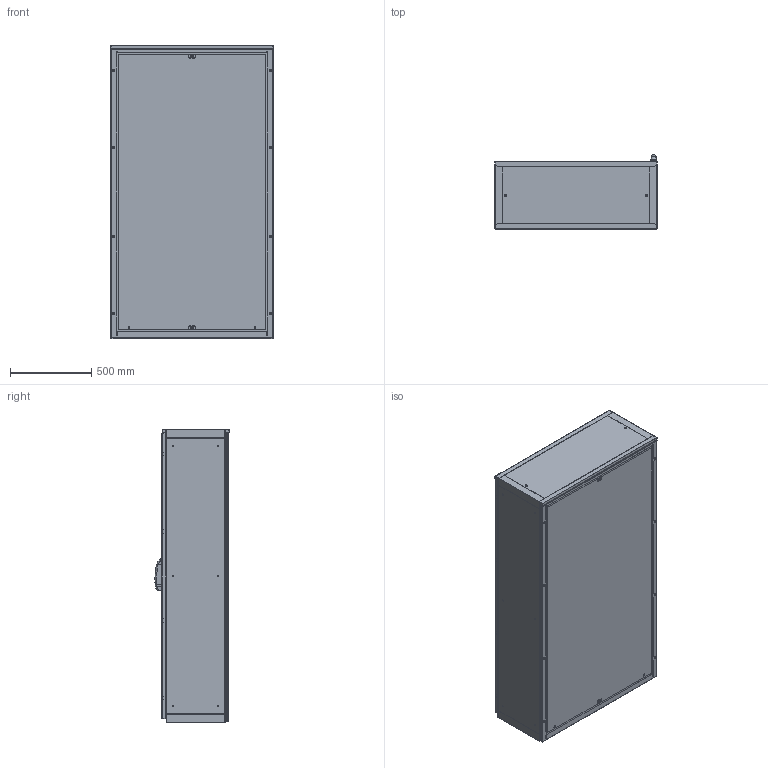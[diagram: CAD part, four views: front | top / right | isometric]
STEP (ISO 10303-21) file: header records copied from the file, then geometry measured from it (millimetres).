
FILE_DESCRIPTION (( 'STEP AP203' ), '1' );
FILE_NAME ('EMOX101804PV.STEP', '2025-06-03T09:32:11', ( '' ), ( '' ), 'SwSTEP 2.0', 'SolidWorks 2022', '' );
FILE_SCHEMA (( 'CONFIG_CONTROL_DESIGN' ));
Length unit declared in the file: millimetre
Products named in the file (10): AR_EMOX_montaggio_porta_singlola_plexi_1000x1800_ANT_DX; AR_ENUX_nuova_maniglia_mesan; EMOX101804PV; AR_EMOX_Retro_singolo_1000x1800; AR_EMOX_Plexiglass_porte_1000x1800; AR_EMOX_Tegolino_1000x0100; AR_EMOX_Porta_singola_plexi_1000x1800_ANT; AR_EMOX_Piastra_frontale_3.0_1000x1800; AR_EMOX_struttura_1000x1800x0400; AR_EMOX_Tegolino_1000x0050
Assembly tree (10 placements, depth 3):
  EMOX101804PV
    AR_EMOX_struttura_1000x1800x0400
    AR_EMOX_Retro_singolo_1000x1800
    AR_EMOX_Tegolino_1000x0050  x2
    AR_EMOX_Tegolino_1000x0100
    AR_EMOX_Piastra_frontale_3.0_1000x1800
    AR_EMOX_montaggio_porta_singlola_plexi_1000x1800_ANT_DX
      AR_EMOX_Porta_singola_plexi_1000x1800_ANT
      AR_EMOX_Plexiglass_porte_1000x1800
      AR_ENUX_nuova_maniglia_mesan
Bounding box: 1000 x 456.5 x 1809 mm (x, y, z)
Volume: 20149851.2 mm3; surface area: 18889959.4 mm2
Topology: 9 solids, 9 shells, 2356 faces, 6583 edges, 4236 vertices
Faces by surface type: plane 1224, cylinder 993, cone 48, torus 46, bspline 25, sphere 20
Entity records: 80136 total; most frequent: CARTESIAN_POINT 16597, DIRECTION 13040, ORIENTED_EDGE 12822, EDGE_CURVE 6411, AXIS2_PLACEMENT_3D 4418, LINE 4204, VECTOR 4204, VERTEX_POINT 4156
